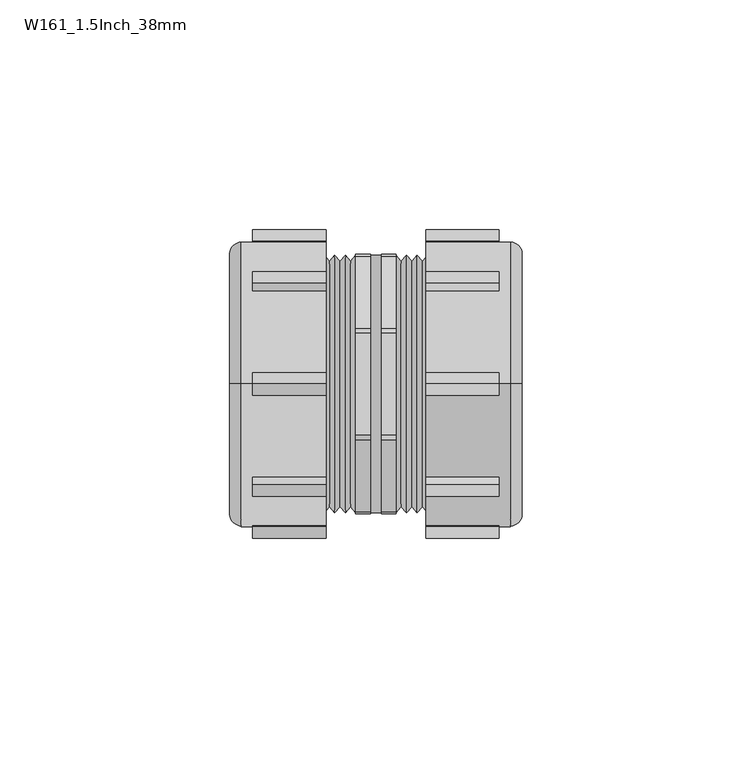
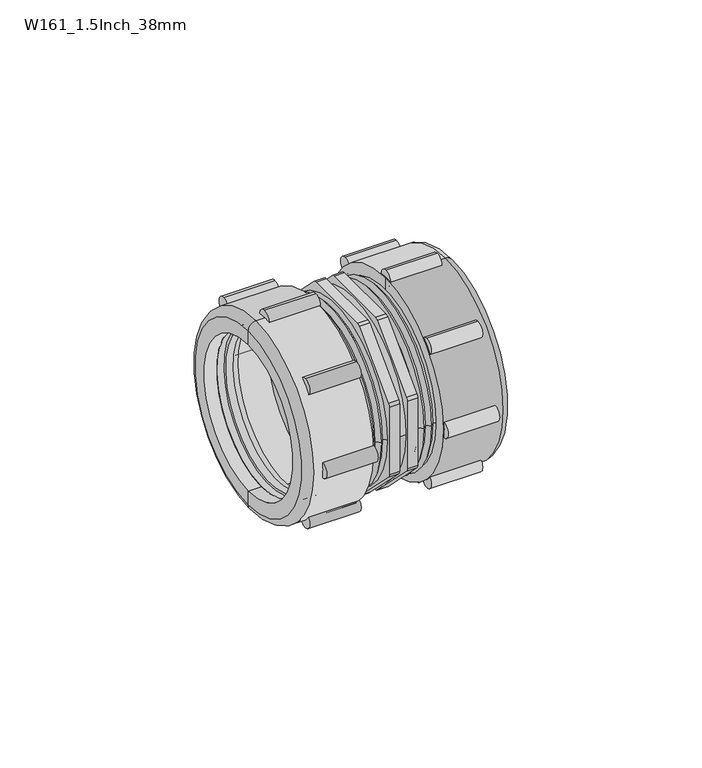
"""IFC4 building model written with IfcOpenShell, lengths in millimetres: pipe fitting geometry, Durapipe_PipeFitting_VulcatheneMechanical_LineCoupler_W16 : W161_1.5Inch_38mm."""

from ifc_helpers import new_model, si_unit, point, frame, frame_2d, origin, place, context, project, spatial, polyline, circle_curve, ellipse_curve, trimmed, segment, composite_curve, outline, extrude, source, transform, mapped, element, save
from ifc_brep_helpers import plane_surface, cylinder_surface, revolved_surface, advanced_brep


def w161_1_5inch_38mm_ecee96b1(model_context):
    return source(origin(), model_context, "Body", "SolidModel", [
        advanced_brep(
        [(27.6, -18.5969083, 18.5969083), (27.6, 18.5969083, -18.5969083), (27.6, 17.1119841, -17.1119841), (27.6, -17.1119841, 17.1119841), (22.6, -18.3140656, 18.3140656), (22.6, 18.3140656, -18.3140656), (21.1, -18.1019336, 18.1019336), (21.1, 18.1019336, -18.1019336), (22.6, 18.1019336, -18.1019336), (22.6, -18.1019336, 18.1019336), (21.1, -17.1119841, 17.1119841), (21.1, 17.1119841, -17.1119841), (23.1, -17.1119841, 17.1119841), (23.1, 17.1119841, -17.1119841), (23.1, -16.5462987, 16.5462987), (23.1, 16.5462987, -16.5462987), (25.4, -17.1119841, 17.1119841), (25.4, 17.1119841, -17.1119841), (25.4, 16.5462987, -16.5462987), (25.4, -16.5462987, 16.5462987)],
        [
            (0, 1, circle_curve(frame((27.6, 0.0, 0.0), z_axis=(1.0, 0.0, 0.0), x_axis=(0.0, 0.7071067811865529, -0.7071067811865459)), 26.3)),
            (1, 2),
            (2, 3, circle_curve(frame((27.6, 0.0, 0.0), z_axis=(-1.0, 0.0, 0.0), x_axis=(0.0, 0.7071067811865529, -0.7071067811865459)), 24.2)),
            (3, 0),
            (1, 0, circle_curve(frame((27.6, 0.0, 0.0), z_axis=(1.0, 0.0, 0.0), x_axis=(0.0, 0.7071067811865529, -0.7071067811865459)), 26.3)),
            (3, 2, circle_curve(frame((27.6, 0.0, 0.0), z_axis=(-1.0, 0.0, 0.0), x_axis=(0.0, 0.7071067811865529, -0.7071067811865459)), 24.2)),
            (4, 5, circle_curve(frame((22.6, 0.0, 0.0), z_axis=(1.0, 0.0, 0.0), x_axis=(0.0, 0.7071067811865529, -0.7071067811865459)), 25.9)),
            (5, 1),
            (0, 4),
            (5, 4, circle_curve(frame((22.6, 0.0, 0.0), z_axis=(1.0, 0.0, 0.0), x_axis=(0.0, 0.7071067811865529, -0.7071067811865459)), 25.9)),
            (6, 7, circle_curve(frame((21.1, 0.0, 0.0), z_axis=(1.0, 0.0, 0.0), x_axis=(0.0, 0.7071067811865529, -0.7071067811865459)), 25.6)),
            (7, 8),
            (8, 9, circle_curve(frame((22.6, 0.0, 0.0), z_axis=(-1.0, 0.0, 0.0), x_axis=(0.0, 0.7071067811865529, -0.7071067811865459)), 25.6)),
            (9, 6),
            (7, 6, circle_curve(frame((21.1, 0.0, 0.0), z_axis=(1.0, 0.0, 0.0), x_axis=(0.0, 0.7071067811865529, -0.7071067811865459)), 25.6)),
            (9, 8, circle_curve(frame((22.6, 0.0, 0.0), z_axis=(-1.0, 0.0, 0.0), x_axis=(0.0, 0.7071067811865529, -0.7071067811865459)), 25.6)),
            (6, 10),
            (10, 11, circle_curve(frame((21.1, 0.0, 0.0), z_axis=(1.0, 0.0, 0.0), x_axis=(0.0, 0.7071067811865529, -0.7071067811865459)), 24.2)),
            (11, 7),
            (11, 10, circle_curve(frame((21.1, 0.0, 0.0), z_axis=(1.0, 0.0, 0.0), x_axis=(0.0, 0.7071067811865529, -0.7071067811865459)), 24.2)),
            (10, 12),
            (12, 13, circle_curve(frame((23.1, 0.0, 0.0), z_axis=(1.0, 0.0, 0.0), x_axis=(0.0, 0.7071067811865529, -0.7071067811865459)), 24.2)),
            (13, 11),
            (13, 12, circle_curve(frame((23.1, 0.0, 0.0), z_axis=(1.0, 0.0, 0.0), x_axis=(0.0, 0.7071067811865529, -0.7071067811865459)), 24.2)),
            (12, 14),
            (14, 15, circle_curve(frame((23.1, 0.0, 0.0), z_axis=(1.0, 0.0, 0.0), x_axis=(0.0, 0.7071067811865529, -0.7071067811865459)), 23.4)),
            (15, 13),
            (15, 14, circle_curve(frame((23.1, 0.0, 0.0), z_axis=(1.0, 0.0, 0.0), x_axis=(0.0, 0.7071067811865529, -0.7071067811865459)), 23.4)),
            (16, 17, circle_curve(frame((25.4, 0.0, 0.0), z_axis=(1.0, 0.0, 0.0), x_axis=(0.0, 0.7071067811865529, -0.7071067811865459)), 24.2)),
            (17, 18),
            (18, 19, circle_curve(frame((25.4, 0.0, 0.0), z_axis=(-1.0, 0.0, 0.0), x_axis=(0.0, 0.7071067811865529, -0.7071067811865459)), 23.4)),
            (19, 16),
            (17, 16, circle_curve(frame((25.4, 0.0, 0.0), z_axis=(1.0, 0.0, 0.0), x_axis=(0.0, 0.7071067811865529, -0.7071067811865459)), 24.2)),
            (19, 18, circle_curve(frame((25.4, 0.0, 0.0), z_axis=(-1.0, 0.0, 0.0), x_axis=(0.0, 0.7071067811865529, -0.7071067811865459)), 23.4)),
            (2, 17),
            (16, 3),
            (14, 19),
            (18, 15),
            (4, 9),
            (8, 5),
        ],
        [
            plane_surface(frame((27.6, 0.0, 0.0), z_axis=(1.0, 0.0, 0.0), x_axis=(0.0, 0.707106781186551, -0.707106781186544))),
            revolved_surface(polyline([(27.6, 18.5969083, -18.5969083), (22.6, 18.3140656, -18.3140656)]), (32.6, 0.0, 0.0), (-1.0000000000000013, 0.0, 0.0)),
            cylinder_surface(frame((19.0293443, 0.0, 0.0), z_axis=(-1.0000000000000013, 0.0, 0.0), x_axis=(0.0, 0.7071067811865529, -0.7071067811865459)), 25.6),
            plane_surface(frame((21.1, 0.0, 0.0), z_axis=(-1.0, 0.0, 0.0), x_axis=(0.0, 0.707106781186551, -0.707106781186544))),
            revolved_surface(polyline([(21.10000000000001, 17.11198410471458, -17.11198410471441), (23.100000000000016, 17.11198410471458, -17.11198410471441)]), (17.607009, 0.0, 0.0), (-1.0000000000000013, 0.0, 0.0)),
            plane_surface(frame((23.1, 0.0, 0.0), z_axis=(-1.0, 0.0, 0.0), x_axis=(0.0, 0.707106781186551, -0.707106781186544))),
            plane_surface(frame((25.4, 0.0, 0.0), z_axis=(1.0, 0.0, 0.0), x_axis=(0.0, 0.707106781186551, -0.707106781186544))),
            revolved_surface(polyline([(25.399999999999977, 17.11198410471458, -17.11198410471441), (27.599999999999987, 17.11198410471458, -17.11198410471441)]), (32.6, 0.0, 0.0), (-1.0000000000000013, 0.0, 0.0)),
            revolved_surface(polyline([(23.099999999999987, 16.546298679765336, -16.546298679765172), (25.399999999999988, 16.546298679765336, -16.546298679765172)]), (29.1661924, 0.0, 0.0), (-1.0000000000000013, 0.0, 0.0)),
            plane_surface(frame((22.6, 0.0, 0.0), z_axis=(-1.0, 0.0, 0.0), x_axis=(0.0, 0.707106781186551, -0.707106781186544))),
        ],
        [
            (0, [[1, 2, 3, 4]]),
            (0, [[-2, 5, -4, 6]]),
            (1, [[7, 8, -1, 9]]),
            (1, [[10, -9, -5, -8]]),
            (2, [[11, 12, 13, 14]]),
            (2, [[-12, 15, -14, 16]]),
            (3, [[-11, 17, 18, 19]]),
            (3, [[-15, -19, 20, -17]]),
            (4, [[21, 22, 23, -18]]),
            (4, [[-21, -20, -23, 24]]),
            (5, [[-22, 25, 26, 27]]),
            (5, [[-24, -27, 28, -25]]),
            (6, [[29, 30, 31, 32]]),
            (6, [[33, -32, 34, -30]]),
            (7, [[-3, 35, -29, 36]]),
            (7, [[-6, -36, -33, -35]]),
            (8, [[37, -31, 38, -26]]),
            (8, [[-37, -28, -38, -34]]),
            (9, [[-7, 39, -13, 40]]),
            (9, [[-10, -40, -16, -39]]),
        ],
    ),
        advanced_brep(
        [(10.9, 0.0, 31.0), (10.9, 0.0, -31.0), (29.3, 0.0, -31.0), (29.3, 0.0, 31.0), (10.9, 0.0, 26.0), (10.9, 0.0, -26.0), (31.8, 0.0, 28.5), (31.8, 0.0, -28.5), (31.8, 0.0, -24.0), (31.8, 0.0, 24.0), (27.6, 0.0, 26.0), (27.6, 0.0, -26.0), (27.6, 0.0, 24.0), (27.6, 0.0, -24.0)],
        [
            (0, 1, circle_curve(frame((10.9, 0.0, 0.0), z_axis=(1.0, 0.0, 0.0), x_axis=(0.0, 0.0, -1.0000000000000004)), 31.0)),
            (1, 2),
            (2, 3, circle_curve(frame((29.3, 0.0, 0.0), z_axis=(-1.0, 0.0, 0.0), x_axis=(0.0, 0.0, -1.0000000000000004)), 31.0)),
            (3, 0),
            (1, 0, circle_curve(frame((10.9, 0.0, 0.0), z_axis=(1.0, 0.0, 0.0), x_axis=(0.0, 0.0, -1.0000000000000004)), 31.0)),
            (3, 2, circle_curve(frame((29.3, 0.0, 0.0), z_axis=(-1.0, 0.0, 0.0), x_axis=(0.0, 0.0, -1.0000000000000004)), 31.0)),
            (4, 5, circle_curve(frame((10.9, 0.0, 0.0), z_axis=(1.0, 0.0, 0.0), x_axis=(0.0, 0.0, -1.0000000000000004)), 26.0)),
            (5, 1),
            (0, 4),
            (5, 4, circle_curve(frame((10.9, 0.0, 0.0), z_axis=(1.0, 0.0, 0.0), x_axis=(0.0, 0.0, -1.0000000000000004)), 26.0)),
            (6, 7, circle_curve(frame((31.8, 0.0, 0.0), z_axis=(1.0, 0.0, 0.0), x_axis=(0.0, 0.0, -1.0000000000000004)), 28.5)),
            (7, 8),
            (8, 9, circle_curve(frame((31.8, 0.0, 0.0), z_axis=(-1.0, 0.0, 0.0), x_axis=(0.0, 0.0, -1.0000000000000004)), 24.0)),
            (9, 6),
            (7, 6, circle_curve(frame((31.8, 0.0, 0.0), z_axis=(1.0, 0.0, 0.0), x_axis=(0.0, 0.0, -1.0000000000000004)), 28.5)),
            (9, 8, circle_curve(frame((31.8, 0.0, 0.0), z_axis=(-1.0, 0.0, 0.0), x_axis=(0.0, 0.0, -1.0000000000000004)), 24.0)),
            (2, 7, circle_curve(frame((29.3, 0.0, -28.5), z_axis=(0.0, -1.0000000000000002, 0.0), x_axis=(1.0000000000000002, 0.0, 0.0)), 2.5)),
            (6, 3, circle_curve(frame((29.3, 0.0, 28.5), z_axis=(0.0, -1.0000000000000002, 0.0), x_axis=(1.0000000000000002, 0.0, 0.0)), 2.5)),
            (10, 11, circle_curve(frame((27.6, 0.0, 0.0), z_axis=(1.0, 0.0, 0.0), x_axis=(0.0, 0.0, -1.0000000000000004)), 26.0)),
            (11, 5),
            (4, 10),
            (11, 10, circle_curve(frame((27.6, 0.0, 0.0), z_axis=(1.0, 0.0, 0.0), x_axis=(0.0, 0.0, -1.0000000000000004)), 26.0)),
            (12, 13, circle_curve(frame((27.6, 0.0, 0.0), z_axis=(1.0, 0.0, 0.0), x_axis=(0.0, 0.0, -1.0000000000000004)), 24.0)),
            (13, 11),
            (10, 12),
            (13, 12, circle_curve(frame((27.6, 0.0, 0.0), z_axis=(1.0, 0.0, 0.0), x_axis=(0.0, 0.0, -1.0000000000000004)), 24.0)),
            (8, 13),
            (12, 9),
        ],
        [
            cylinder_surface(frame((1592.6018184, 0.0, 0.0), z_axis=(-1.0000000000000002, 0.0, 0.0), x_axis=(0.0, 0.0, -1.0000000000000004)), 31.0),
            plane_surface(frame((10.9, 0.0, 0.0), z_axis=(-1.0, 0.0, 0.0), x_axis=(0.0, 0.0, -1.0))),
            plane_surface(frame((31.8, 0.0, 0.0), z_axis=(1.0, 0.0, 0.0), x_axis=(0.0, 0.0, -1.0))),
            revolved_surface(trimmed(ellipse_curve(frame((29.3, 0.0, -28.5), z_axis=(0.0, 1.0000000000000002, 0.0), x_axis=(1.0000000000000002, 0.0, 0.0)), 2.5, 2.5), [point((31.8, 0.0, -28.5))], [point((29.3, 0.0, -31.0))], True, "CARTESIAN"), (1592.6018184, 0.0, 0.0), (-1.0000000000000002, 0.0, 0.0)),
            revolved_surface(polyline([(10.899999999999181, 0.0, -26.00000000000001), (27.599999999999, 0.0, -26.00000000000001)]), (1592.6018184, 0.0, 0.0), (-1.0000000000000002, 0.0, 0.0)),
            plane_surface(frame((27.6, 0.0, 0.0), z_axis=(-1.0, 0.0, 0.0), x_axis=(0.0, 0.0, -1.0))),
            revolved_surface(polyline([(27.599999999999, 0.0, -24.00000000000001), (31.799999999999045, 0.0, -24.00000000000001)]), (1592.6018184, 0.0, 0.0), (-1.0000000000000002, 0.0, 0.0)),
        ],
        [
            (0, [[1, 2, 3, 4]]),
            (0, [[5, -4, 6, -2]]),
            (1, [[7, 8, -1, 9]]),
            (1, [[10, -9, -5, -8]]),
            (2, [[11, 12, 13, 14]]),
            (2, [[15, -14, 16, -12]]),
            (3, [[-3, 17, -11, 18]]),
            (3, [[-6, -18, -15, -17]]),
            (4, [[19, 20, -7, 21]]),
            (4, [[22, -21, -10, -20]]),
            (5, [[23, 24, -19, 25]]),
            (5, [[26, -25, -22, -24]]),
            (6, [[-13, 27, -23, 28]]),
            (6, [[-16, -28, -26, -27]]),
        ],
    ),
        extrude(outline(composite_curve([segment(trimmed(circle_curve(frame_2d((31.0, 0.0)), 2.5), [point((31.0, 2.5))], [point((31.0, -2.5))], False, "CARTESIAN"), True, "CONTINUOUS"), segment(trimmed(circle_curve(frame_2d((31.0, 0.0)), 2.5), [point((31.0, -2.5))], [point((31.0, 2.5))], False, "CARTESIAN"), True, "CONTINUOUS")], self_intersect=False)), frame((10.9, 0.0, 0.0), z_axis=(1.0, 0.0, 0.0), x_axis=(0.0, 1.0, 0.0)), (0.0, 0.0, 1.0), 15.9),
        extrude(outline(composite_curve([segment(trimmed(circle_curve(frame_2d((21.9203102, -21.9203102)), 2.5), [point((21.9203102, -19.4203102))], [point((21.9203102, -24.4203102))], False, "CARTESIAN"), True, "CONTINUOUS"), segment(trimmed(circle_curve(frame_2d((21.9203102, -21.9203102)), 2.5), [point((21.9203102, -24.4203102))], [point((21.9203102, -19.4203102))], False, "CARTESIAN"), True, "CONTINUOUS")], self_intersect=False)), frame((10.9, 0.0, 0.0), z_axis=(1.0, 0.0, 0.0), x_axis=(0.0, 1.0, 0.0)), (0.0, 0.0, 1.0), 15.9),
        extrude(outline(composite_curve([segment(trimmed(circle_curve(frame_2d((0.0, -31.0)), 2.5), [point((0.0, -28.5))], [point((0.0, -33.5))], False, "CARTESIAN"), True, "CONTINUOUS"), segment(trimmed(circle_curve(frame_2d((0.0, -31.0)), 2.5), [point((0.0, -33.5))], [point((0.0, -28.5))], False, "CARTESIAN"), True, "CONTINUOUS")], self_intersect=False)), frame((10.9, 0.0, 0.0), z_axis=(1.0, 0.0, 0.0), x_axis=(0.0, 1.0, 0.0)), (0.0, 0.0, 1.0), 15.9),
        extrude(outline(composite_curve([segment(trimmed(circle_curve(frame_2d((-21.9203102, -21.9203102)), 2.5), [point((-21.9203102, -19.4203102))], [point((-21.9203102, -24.4203102))], False, "CARTESIAN"), True, "CONTINUOUS"), segment(trimmed(circle_curve(frame_2d((-21.9203102, -21.9203102)), 2.5), [point((-21.9203102, -24.4203102))], [point((-21.9203102, -19.4203102))], False, "CARTESIAN"), True, "CONTINUOUS")], self_intersect=False)), frame((10.9, 0.0, 0.0), z_axis=(1.0, 0.0, 0.0), x_axis=(0.0, 1.0, 0.0)), (0.0, 0.0, 1.0), 15.9),
        extrude(outline(composite_curve([segment(trimmed(circle_curve(frame_2d((-31.0, 0.0)), 2.5), [point((-31.0, 2.5))], [point((-31.0, -2.5))], False, "CARTESIAN"), True, "CONTINUOUS"), segment(trimmed(circle_curve(frame_2d((-31.0, 0.0)), 2.5), [point((-31.0, -2.5))], [point((-31.0, 2.5))], False, "CARTESIAN"), True, "CONTINUOUS")], self_intersect=False)), frame((10.9, 0.0, 0.0), z_axis=(1.0, 0.0, 0.0), x_axis=(0.0, 1.0, 0.0)), (0.0, 0.0, 1.0), 15.9),
        extrude(outline(composite_curve([segment(trimmed(circle_curve(frame_2d((-21.9203102, 21.9203102)), 2.5), [point((-21.9203102, 24.4203102))], [point((-21.9203102, 19.4203102))], False, "CARTESIAN"), True, "CONTINUOUS"), segment(trimmed(circle_curve(frame_2d((-21.9203102, 21.9203102)), 2.5), [point((-21.9203102, 19.4203102))], [point((-21.9203102, 24.4203102))], False, "CARTESIAN"), True, "CONTINUOUS")], self_intersect=False)), frame((10.9, 0.0, 0.0), z_axis=(1.0, 0.0, 0.0), x_axis=(0.0, 1.0, 0.0)), (0.0, 0.0, 1.0), 15.9),
        extrude(outline(composite_curve([segment(trimmed(circle_curve(frame_2d((0.0, 31.0)), 2.5), [point((0.0, 33.5))], [point((0.0, 28.5))], False, "CARTESIAN"), True, "CONTINUOUS"), segment(trimmed(circle_curve(frame_2d((0.0, 31.0)), 2.5), [point((0.0, 28.5))], [point((0.0, 33.5))], False, "CARTESIAN"), True, "CONTINUOUS")], self_intersect=False)), frame((10.9, 0.0, 0.0), z_axis=(1.0, 0.0, 0.0), x_axis=(0.0, 1.0, 0.0)), (0.0, 0.0, 1.0), 15.9),
        extrude(outline(composite_curve([segment(trimmed(circle_curve(frame_2d((21.9203102, 21.9203102)), 2.5), [point((21.9203102, 24.4203102))], [point((21.9203102, 19.4203102))], False, "CARTESIAN"), True, "CONTINUOUS"), segment(trimmed(circle_curve(frame_2d((21.9203102, 21.9203102)), 2.5), [point((21.9203102, 19.4203102))], [point((21.9203102, 24.4203102))], False, "CARTESIAN"), True, "CONTINUOUS")], self_intersect=False)), frame((10.9, 0.0, 0.0), z_axis=(1.0, 0.0, 0.0), x_axis=(0.0, 1.0, 0.0)), (0.0, 0.0, 1.0), 15.9),
        advanced_brep(
        [(-27.6, -18.5969083, -18.5969083), (-27.6, 18.5969083, 18.5969083), (-27.6, 17.1119841, 17.1119841), (-27.6, -17.1119841, -17.1119841), (-22.6, -18.3140656, -18.3140656), (-22.6, 18.3140656, 18.3140656), (-21.1, -18.1019336, -18.1019336), (-21.1, 18.1019336, 18.1019336), (-22.6, 18.1019336, 18.1019336), (-22.6, -18.1019336, -18.1019336), (-21.1, -17.1119841, -17.1119841), (-21.1, 17.1119841, 17.1119841), (-23.1, -17.1119841, -17.1119841), (-23.1, 17.1119841, 17.1119841), (-23.1, -16.5462987, -16.5462987), (-23.1, 16.5462987, 16.5462987), (-25.4, -17.1119841, -17.1119841), (-25.4, 17.1119841, 17.1119841), (-25.4, 16.5462987, 16.5462987), (-25.4, -16.5462987, -16.5462987)],
        [
            (0, 1, circle_curve(frame((-27.6, 0.0, 0.0), z_axis=(-1.0, 0.0, 0.0), x_axis=(0.0, 0.7071067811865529, 0.7071067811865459)), 26.3)),
            (1, 2),
            (2, 3, circle_curve(frame((-27.6, 0.0, 0.0), z_axis=(1.0, 0.0, 0.0), x_axis=(0.0, 0.7071067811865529, 0.7071067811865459)), 24.2)),
            (3, 0),
            (1, 0, circle_curve(frame((-27.6, 0.0, 0.0), z_axis=(-1.0, 0.0, 0.0), x_axis=(0.0, 0.7071067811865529, 0.7071067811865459)), 26.3)),
            (3, 2, circle_curve(frame((-27.6, 0.0, 0.0), z_axis=(1.0, 0.0, 0.0), x_axis=(0.0, 0.7071067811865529, 0.7071067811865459)), 24.2)),
            (4, 5, circle_curve(frame((-22.6, 0.0, 0.0), z_axis=(-1.0, 0.0, 0.0), x_axis=(0.0, 0.7071067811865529, 0.7071067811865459)), 25.9)),
            (5, 1),
            (0, 4),
            (5, 4, circle_curve(frame((-22.6, 0.0, 0.0), z_axis=(-1.0, 0.0, 0.0), x_axis=(0.0, 0.7071067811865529, 0.7071067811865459)), 25.9)),
            (6, 7, circle_curve(frame((-21.1, 0.0, 0.0), z_axis=(-1.0, 0.0, 0.0), x_axis=(0.0, 0.7071067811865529, 0.7071067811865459)), 25.6)),
            (7, 8),
            (8, 9, circle_curve(frame((-22.6, 0.0, 0.0), z_axis=(1.0, 0.0, 0.0), x_axis=(0.0, 0.7071067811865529, 0.7071067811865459)), 25.6)),
            (9, 6),
            (7, 6, circle_curve(frame((-21.1, 0.0, 0.0), z_axis=(-1.0, 0.0, 0.0), x_axis=(0.0, 0.7071067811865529, 0.7071067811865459)), 25.6)),
            (9, 8, circle_curve(frame((-22.6, 0.0, 0.0), z_axis=(1.0, 0.0, 0.0), x_axis=(0.0, 0.7071067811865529, 0.7071067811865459)), 25.6)),
            (6, 10),
            (10, 11, circle_curve(frame((-21.1, 0.0, 0.0), z_axis=(-1.0, 0.0, 0.0), x_axis=(0.0, 0.7071067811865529, 0.7071067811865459)), 24.2)),
            (11, 7),
            (11, 10, circle_curve(frame((-21.1, 0.0, 0.0), z_axis=(-1.0, 0.0, 0.0), x_axis=(0.0, 0.7071067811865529, 0.7071067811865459)), 24.2)),
            (10, 12),
            (12, 13, circle_curve(frame((-23.1, 0.0, 0.0), z_axis=(-1.0, 0.0, 0.0), x_axis=(0.0, 0.7071067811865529, 0.7071067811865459)), 24.2)),
            (13, 11),
            (13, 12, circle_curve(frame((-23.1, 0.0, 0.0), z_axis=(-1.0, 0.0, 0.0), x_axis=(0.0, 0.7071067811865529, 0.7071067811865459)), 24.2)),
            (12, 14),
            (14, 15, circle_curve(frame((-23.1, 0.0, 0.0), z_axis=(-1.0, 0.0, 0.0), x_axis=(0.0, 0.7071067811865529, 0.7071067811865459)), 23.4)),
            (15, 13),
            (15, 14, circle_curve(frame((-23.1, 0.0, 0.0), z_axis=(-1.0, 0.0, 0.0), x_axis=(0.0, 0.7071067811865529, 0.7071067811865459)), 23.4)),
            (16, 17, circle_curve(frame((-25.4, 0.0, 0.0), z_axis=(-1.0, 0.0, 0.0), x_axis=(0.0, 0.7071067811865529, 0.7071067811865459)), 24.2)),
            (17, 18),
            (18, 19, circle_curve(frame((-25.4, 0.0, 0.0), z_axis=(1.0, 0.0, 0.0), x_axis=(0.0, 0.7071067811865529, 0.7071067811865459)), 23.4)),
            (19, 16),
            (17, 16, circle_curve(frame((-25.4, 0.0, 0.0), z_axis=(-1.0, 0.0, 0.0), x_axis=(0.0, 0.7071067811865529, 0.7071067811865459)), 24.2)),
            (19, 18, circle_curve(frame((-25.4, 0.0, 0.0), z_axis=(1.0, 0.0, 0.0), x_axis=(0.0, 0.7071067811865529, 0.7071067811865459)), 23.4)),
            (2, 17),
            (16, 3),
            (14, 19),
            (18, 15),
            (4, 9),
            (8, 5),
        ],
        [
            plane_surface(frame((-27.6, 0.0, 0.0), z_axis=(-1.0, 0.0, 0.0), x_axis=(0.0, 0.707106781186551, 0.707106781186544))),
            revolved_surface(polyline([(-27.6, 18.5969083, 18.5969083), (-22.6, 18.3140656, 18.3140656)]), (-32.6, 0.0, 0.0), (1.0000000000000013, 0.0, 0.0)),
            cylinder_surface(frame((-19.0293443, 0.0, 0.0), z_axis=(1.0000000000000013, 0.0, 0.0), x_axis=(0.0, 0.7071067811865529, 0.7071067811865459)), 25.6),
            plane_surface(frame((-21.1, 0.0, 0.0), z_axis=(1.0, 0.0, 0.0), x_axis=(0.0, 0.707106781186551, 0.707106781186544))),
            revolved_surface(polyline([(-21.10000000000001, 17.11198410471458, 17.11198410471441), (-23.100000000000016, 17.11198410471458, 17.11198410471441)]), (-17.607009, 0.0, 0.0), (1.0000000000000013, 0.0, 0.0)),
            plane_surface(frame((-23.1, 0.0, 0.0), z_axis=(1.0, 0.0, 0.0), x_axis=(0.0, 0.707106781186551, 0.707106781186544))),
            plane_surface(frame((-25.4, 0.0, 0.0), z_axis=(-1.0, 0.0, 0.0), x_axis=(0.0, 0.707106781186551, 0.707106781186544))),
            revolved_surface(polyline([(-25.399999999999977, 17.11198410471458, 17.11198410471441), (-27.599999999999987, 17.11198410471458, 17.11198410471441)]), (-32.6, 0.0, 0.0), (1.0000000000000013, 0.0, 0.0)),
            revolved_surface(polyline([(-23.099999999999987, 16.546298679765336, 16.546298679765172), (-25.399999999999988, 16.546298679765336, 16.546298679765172)]), (-29.1661924, 0.0, 0.0), (1.0000000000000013, 0.0, 0.0)),
            plane_surface(frame((-22.6, 0.0, 0.0), z_axis=(1.0, 0.0, 0.0), x_axis=(0.0, 0.707106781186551, 0.707106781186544))),
        ],
        [
            (0, [[1, 2, 3, 4]]),
            (0, [[-2, 5, -4, 6]]),
            (1, [[7, 8, -1, 9]]),
            (1, [[10, -9, -5, -8]]),
            (2, [[11, 12, 13, 14]]),
            (2, [[-12, 15, -14, 16]]),
            (3, [[-11, 17, 18, 19]]),
            (3, [[-15, -19, 20, -17]]),
            (4, [[21, 22, 23, -18]]),
            (4, [[-21, -20, -23, 24]]),
            (5, [[-22, 25, 26, 27]]),
            (5, [[-24, -27, 28, -25]]),
            (6, [[29, 30, 31, 32]]),
            (6, [[33, -32, 34, -30]]),
            (7, [[-3, 35, -29, 36]]),
            (7, [[-6, -36, -33, -35]]),
            (8, [[37, -31, 38, -26]]),
            (8, [[-37, -28, -38, -34]]),
            (9, [[-7, 39, -13, 40]]),
            (9, [[-10, -40, -16, -39]]),
        ],
    ),
        advanced_brep(
        [(-10.9, 0.0, -31.0), (-10.9, 0.0, 31.0), (-29.3, 0.0, 31.0), (-29.3, 0.0, -31.0), (-10.9, 0.0, -26.0), (-10.9, 0.0, 26.0), (-31.8, 0.0, -28.5), (-31.8, 0.0, 28.5), (-31.8, 0.0, 24.0), (-31.8, 0.0, -24.0), (-27.6, 0.0, -26.0), (-27.6, 0.0, 26.0), (-27.6, 0.0, -24.0), (-27.6, 0.0, 24.0)],
        [
            (0, 1, circle_curve(frame((-10.9, 0.0, 0.0), z_axis=(-1.0, 0.0, 0.0), x_axis=(0.0, 0.0, 1.0000000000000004)), 31.0)),
            (1, 2),
            (2, 3, circle_curve(frame((-29.3, 0.0, 0.0), z_axis=(1.0, 0.0, 0.0), x_axis=(0.0, 0.0, 1.0000000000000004)), 31.0)),
            (3, 0),
            (1, 0, circle_curve(frame((-10.9, 0.0, 0.0), z_axis=(-1.0, 0.0, 0.0), x_axis=(0.0, 0.0, 1.0000000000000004)), 31.0)),
            (3, 2, circle_curve(frame((-29.3, 0.0, 0.0), z_axis=(1.0, 0.0, 0.0), x_axis=(0.0, 0.0, 1.0000000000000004)), 31.0)),
            (4, 5, circle_curve(frame((-10.9, 0.0, 0.0), z_axis=(-1.0, 0.0, 0.0), x_axis=(0.0, 0.0, 1.0000000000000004)), 26.0)),
            (5, 1),
            (0, 4),
            (5, 4, circle_curve(frame((-10.9, 0.0, 0.0), z_axis=(-1.0, 0.0, 0.0), x_axis=(0.0, 0.0, 1.0000000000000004)), 26.0)),
            (6, 7, circle_curve(frame((-31.8, 0.0, 0.0), z_axis=(-1.0, 0.0, 0.0), x_axis=(0.0, 0.0, 1.0000000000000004)), 28.5)),
            (7, 8),
            (8, 9, circle_curve(frame((-31.8, 0.0, 0.0), z_axis=(1.0, 0.0, 0.0), x_axis=(0.0, 0.0, 1.0000000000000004)), 24.0)),
            (9, 6),
            (7, 6, circle_curve(frame((-31.8, 0.0, 0.0), z_axis=(-1.0, 0.0, 0.0), x_axis=(0.0, 0.0, 1.0000000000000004)), 28.5)),
            (9, 8, circle_curve(frame((-31.8, 0.0, 0.0), z_axis=(1.0, 0.0, 0.0), x_axis=(0.0, 0.0, 1.0000000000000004)), 24.0)),
            (2, 7, circle_curve(frame((-29.3, 0.0, 28.5), z_axis=(0.0, -1.0000000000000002, 0.0), x_axis=(-1.0000000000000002, 0.0, 0.0)), 2.5)),
            (6, 3, circle_curve(frame((-29.3, 0.0, -28.5), z_axis=(0.0, -1.0000000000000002, 0.0), x_axis=(-1.0000000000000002, 0.0, 0.0)), 2.5)),
            (10, 11, circle_curve(frame((-27.6, 0.0, 0.0), z_axis=(-1.0, 0.0, 0.0), x_axis=(0.0, 0.0, 1.0000000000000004)), 26.0)),
            (11, 5),
            (4, 10),
            (11, 10, circle_curve(frame((-27.6, 0.0, 0.0), z_axis=(-1.0, 0.0, 0.0), x_axis=(0.0, 0.0, 1.0000000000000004)), 26.0)),
            (12, 13, circle_curve(frame((-27.6, 0.0, 0.0), z_axis=(-1.0, 0.0, 0.0), x_axis=(0.0, 0.0, 1.0000000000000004)), 24.0)),
            (13, 11),
            (10, 12),
            (13, 12, circle_curve(frame((-27.6, 0.0, 0.0), z_axis=(-1.0, 0.0, 0.0), x_axis=(0.0, 0.0, 1.0000000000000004)), 24.0)),
            (8, 13),
            (12, 9),
        ],
        [
            cylinder_surface(frame((-1592.6018184, 0.0, 0.0), z_axis=(1.0000000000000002, 0.0, 0.0), x_axis=(0.0, 0.0, 1.0000000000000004)), 31.0),
            plane_surface(frame((-10.9, 0.0, 0.0), z_axis=(1.0, 0.0, 0.0), x_axis=(0.0, 0.0, 1.0))),
            plane_surface(frame((-31.8, 0.0, 0.0), z_axis=(-1.0, 0.0, 0.0), x_axis=(0.0, 0.0, 1.0))),
            revolved_surface(trimmed(ellipse_curve(frame((-29.3, 0.0, 28.5), z_axis=(0.0, 1.0000000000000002, 0.0), x_axis=(-1.0000000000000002, 0.0, 0.0)), 2.5, 2.5), [point((-31.8, 0.0, 28.5))], [point((-29.3, 0.0, 31.0))], True, "CARTESIAN"), (-1592.6018184, 0.0, 0.0), (1.0000000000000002, 0.0, 0.0)),
            revolved_surface(polyline([(-10.899999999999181, 0.0, 26.00000000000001), (-27.599999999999, 0.0, 26.00000000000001)]), (-1592.6018184, 0.0, 0.0), (1.0000000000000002, 0.0, 0.0)),
            plane_surface(frame((-27.6, 0.0, 0.0), z_axis=(1.0, 0.0, 0.0), x_axis=(0.0, 0.0, 1.0))),
            revolved_surface(polyline([(-27.599999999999, 0.0, 24.00000000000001), (-31.799999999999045, 0.0, 24.00000000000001)]), (-1592.6018184, 0.0, 0.0), (1.0000000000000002, 0.0, 0.0)),
        ],
        [
            (0, [[1, 2, 3, 4]]),
            (0, [[5, -4, 6, -2]]),
            (1, [[7, 8, -1, 9]]),
            (1, [[10, -9, -5, -8]]),
            (2, [[11, 12, 13, 14]]),
            (2, [[15, -14, 16, -12]]),
            (3, [[-3, 17, -11, 18]]),
            (3, [[-6, -18, -15, -17]]),
            (4, [[19, 20, -7, 21]]),
            (4, [[22, -21, -10, -20]]),
            (5, [[23, 24, -19, 25]]),
            (5, [[26, -25, -22, -24]]),
            (6, [[-13, 27, -23, 28]]),
            (6, [[-16, -28, -26, -27]]),
        ],
    ),
        extrude(outline(composite_curve([segment(trimmed(circle_curve(frame_2d((31.0, 0.0)), 2.5), [point((31.0, -2.5))], [point((31.0, 2.5))], False, "CARTESIAN"), True, "CONTINUOUS"), segment(trimmed(circle_curve(frame_2d((31.0, 0.0)), 2.5), [point((31.0, 2.5))], [point((31.0, -2.5))], False, "CARTESIAN"), True, "CONTINUOUS")], self_intersect=False)), frame((-26.8, 0.0, 0.0), z_axis=(1.0, 0.0, 0.0), x_axis=(0.0, 1.0, 0.0)), (0.0, 0.0, 1.0), 15.9),
        extrude(outline(composite_curve([segment(trimmed(circle_curve(frame_2d((21.9203102, 21.9203102)), 2.5), [point((21.9203102, 19.4203102))], [point((21.9203102, 24.4203102))], False, "CARTESIAN"), True, "CONTINUOUS"), segment(trimmed(circle_curve(frame_2d((21.9203102, 21.9203102)), 2.5), [point((21.9203102, 24.4203102))], [point((21.9203102, 19.4203102))], False, "CARTESIAN"), True, "CONTINUOUS")], self_intersect=False)), frame((-26.8, 0.0, 0.0), z_axis=(1.0, 0.0, 0.0), x_axis=(0.0, 1.0, 0.0)), (0.0, 0.0, 1.0), 15.9),
        extrude(outline(composite_curve([segment(trimmed(circle_curve(frame_2d((0.0, 31.0)), 2.5), [point((0.0, 28.5))], [point((0.0, 33.5))], False, "CARTESIAN"), True, "CONTINUOUS"), segment(trimmed(circle_curve(frame_2d((0.0, 31.0)), 2.5), [point((0.0, 33.5))], [point((0.0, 28.5))], False, "CARTESIAN"), True, "CONTINUOUS")], self_intersect=False)), frame((-26.8, 0.0, 0.0), z_axis=(1.0, 0.0, 0.0), x_axis=(0.0, 1.0, 0.0)), (0.0, 0.0, 1.0), 15.9),
        extrude(outline(composite_curve([segment(trimmed(circle_curve(frame_2d((-21.9203102, 21.9203102)), 2.5), [point((-21.9203102, 19.4203102))], [point((-21.9203102, 24.4203102))], False, "CARTESIAN"), True, "CONTINUOUS"), segment(trimmed(circle_curve(frame_2d((-21.9203102, 21.9203102)), 2.5), [point((-21.9203102, 24.4203102))], [point((-21.9203102, 19.4203102))], False, "CARTESIAN"), True, "CONTINUOUS")], self_intersect=False)), frame((-26.8, 0.0, 0.0), z_axis=(1.0, 0.0, 0.0), x_axis=(0.0, 1.0, 0.0)), (0.0, 0.0, 1.0), 15.9),
        extrude(outline(composite_curve([segment(trimmed(circle_curve(frame_2d((-31.0, 0.0)), 2.5), [point((-31.0, -2.5))], [point((-31.0, 2.5))], False, "CARTESIAN"), True, "CONTINUOUS"), segment(trimmed(circle_curve(frame_2d((-31.0, 0.0)), 2.5), [point((-31.0, 2.5))], [point((-31.0, -2.5))], False, "CARTESIAN"), True, "CONTINUOUS")], self_intersect=False)), frame((-26.8, 0.0, 0.0), z_axis=(1.0, 0.0, 0.0), x_axis=(0.0, 1.0, 0.0)), (0.0, 0.0, 1.0), 15.9),
        extrude(outline(composite_curve([segment(trimmed(circle_curve(frame_2d((-21.9203102, -21.9203102)), 2.5), [point((-21.9203102, -24.4203102))], [point((-21.9203102, -19.4203102))], False, "CARTESIAN"), True, "CONTINUOUS"), segment(trimmed(circle_curve(frame_2d((-21.9203102, -21.9203102)), 2.5), [point((-21.9203102, -19.4203102))], [point((-21.9203102, -24.4203102))], False, "CARTESIAN"), True, "CONTINUOUS")], self_intersect=False)), frame((-26.8, 0.0, 0.0), z_axis=(1.0, 0.0, 0.0), x_axis=(0.0, 1.0, 0.0)), (0.0, 0.0, 1.0), 15.9),
        extrude(outline(composite_curve([segment(trimmed(circle_curve(frame_2d((0.0, -31.0)), 2.5), [point((0.0, -33.5))], [point((0.0, -28.5))], False, "CARTESIAN"), True, "CONTINUOUS"), segment(trimmed(circle_curve(frame_2d((0.0, -31.0)), 2.5), [point((0.0, -28.5))], [point((0.0, -33.5))], False, "CARTESIAN"), True, "CONTINUOUS")], self_intersect=False)), frame((-26.8, 0.0, 0.0), z_axis=(1.0, 0.0, 0.0), x_axis=(0.0, 1.0, 0.0)), (0.0, 0.0, 1.0), 15.9),
        extrude(outline(composite_curve([segment(trimmed(circle_curve(frame_2d((21.9203102, -21.9203102)), 2.5), [point((21.9203102, -24.4203102))], [point((21.9203102, -19.4203102))], False, "CARTESIAN"), True, "CONTINUOUS"), segment(trimmed(circle_curve(frame_2d((21.9203102, -21.9203102)), 2.5), [point((21.9203102, -19.4203102))], [point((21.9203102, -24.4203102))], False, "CARTESIAN"), True, "CONTINUOUS")], self_intersect=False)), frame((-26.8, 0.0, 0.0), z_axis=(1.0, 0.0, 0.0), x_axis=(0.0, 1.0, 0.0)), (0.0, 0.0, 1.0), 15.9),
        extrude(outline(composite_curve([segment(trimmed(circle_curve(frame_2d((11.0802128, 26.75)), 1.5), [point((11.0802128, 28.25))], [point((12.140873, 27.8106602))], False, "CARTESIAN"), True, "CONTINUOUS"), segment(polyline([(12.140873, 27.8106602), (27.8106602, 12.140873)]), True, "CONTINUOUS"), segment(trimmed(circle_curve(frame_2d((26.75, 11.0802128)), 1.5), [point((27.8106602, 12.140873))], [point((28.25, 11.0802128))], False, "CARTESIAN"), True, "CONTINUOUS"), segment(polyline([(28.25, 11.0802128), (28.25, -11.0802128)]), True, "CONTINUOUS"), segment(trimmed(circle_curve(frame_2d((26.75, -11.0802128)), 1.5), [point((28.25, -11.0802128))], [point((27.8106602, -12.140873))], False, "CARTESIAN"), True, "CONTINUOUS"), segment(polyline([(27.8106602, -12.140873), (12.140873, -27.8106602)]), True, "CONTINUOUS"), segment(trimmed(circle_curve(frame_2d((11.0802128, -26.75)), 1.5), [point((12.140873, -27.8106602))], [point((11.0802128, -28.25))], False, "CARTESIAN"), True, "CONTINUOUS"), segment(polyline([(11.0802128, -28.25), (-11.0802128, -28.25)]), True, "CONTINUOUS"), segment(trimmed(circle_curve(frame_2d((-11.0802128, -26.75)), 1.5), [point((-11.0802128, -28.25))], [point((-12.140873, -27.8106602))], False, "CARTESIAN"), True, "CONTINUOUS"), segment(polyline([(-12.140873, -27.8106602), (-27.8106602, -12.140873)]), True, "CONTINUOUS"), segment(trimmed(circle_curve(frame_2d((-26.75, -11.0802128)), 1.5), [point((-27.8106602, -12.140873))], [point((-28.25, -11.0802128))], False, "CARTESIAN"), True, "CONTINUOUS"), segment(polyline([(-28.25, -11.0802128), (-28.25, 11.0802128)]), True, "CONTINUOUS"), segment(trimmed(circle_curve(frame_2d((-26.75, 11.0802128)), 1.5), [point((-28.25, 11.0802128))], [point((-27.8106602, 12.140873))], False, "CARTESIAN"), True, "CONTINUOUS"), segment(polyline([(-27.8106602, 12.140873), (-12.140873, 27.8106602)]), True, "CONTINUOUS"), segment(trimmed(circle_curve(frame_2d((-11.0802128, 26.75)), 1.5), [point((-12.140873, 27.8106602))], [point((-11.0802128, 28.25))], False, "CARTESIAN"), True, "CONTINUOUS"), segment(polyline([(-11.0802128, 28.25), (11.0802128, 28.25)]), True, "CONTINUOUS")], self_intersect=False)), frame((-4.4, 0.0, 0.0), z_axis=(1.0, 0.0, 0.0), x_axis=(0.0, 1.0, 0.0)), (0.0, 0.0, 1.0), 3.2),
        extrude(outline(composite_curve([segment(trimmed(circle_curve(frame_2d((11.0802128, 26.75)), 1.5), [point((11.0802128, 28.25))], [point((12.140873, 27.8106602))], False, "CARTESIAN"), True, "CONTINUOUS"), segment(polyline([(12.140873, 27.8106602), (27.8106602, 12.140873)]), True, "CONTINUOUS"), segment(trimmed(circle_curve(frame_2d((26.75, 11.0802128)), 1.5), [point((27.8106602, 12.140873))], [point((28.25, 11.0802128))], False, "CARTESIAN"), True, "CONTINUOUS"), segment(polyline([(28.25, 11.0802128), (28.25, -11.0802128)]), True, "CONTINUOUS"), segment(trimmed(circle_curve(frame_2d((26.75, -11.0802128)), 1.5), [point((28.25, -11.0802128))], [point((27.8106602, -12.140873))], False, "CARTESIAN"), True, "CONTINUOUS"), segment(polyline([(27.8106602, -12.140873), (12.140873, -27.8106602)]), True, "CONTINUOUS"), segment(trimmed(circle_curve(frame_2d((11.0802128, -26.75)), 1.5), [point((12.140873, -27.8106602))], [point((11.0802128, -28.25))], False, "CARTESIAN"), True, "CONTINUOUS"), segment(polyline([(11.0802128, -28.25), (-11.0802128, -28.25)]), True, "CONTINUOUS"), segment(trimmed(circle_curve(frame_2d((-11.0802128, -26.75)), 1.5), [point((-11.0802128, -28.25))], [point((-12.140873, -27.8106602))], False, "CARTESIAN"), True, "CONTINUOUS"), segment(polyline([(-12.140873, -27.8106602), (-27.8106602, -12.140873)]), True, "CONTINUOUS"), segment(trimmed(circle_curve(frame_2d((-26.75, -11.0802128)), 1.5), [point((-27.8106602, -12.140873))], [point((-28.25, -11.0802128))], False, "CARTESIAN"), True, "CONTINUOUS"), segment(polyline([(-28.25, -11.0802128), (-28.25, 11.0802128)]), True, "CONTINUOUS"), segment(trimmed(circle_curve(frame_2d((-26.75, 11.0802128)), 1.5), [point((-28.25, 11.0802128))], [point((-27.8106602, 12.140873))], False, "CARTESIAN"), True, "CONTINUOUS"), segment(polyline([(-27.8106602, 12.140873), (-12.140873, 27.8106602)]), True, "CONTINUOUS"), segment(trimmed(circle_curve(frame_2d((-11.0802128, 26.75)), 1.5), [point((-12.140873, 27.8106602))], [point((-11.0802128, 28.25))], False, "CARTESIAN"), True, "CONTINUOUS"), segment(polyline([(-11.0802128, 28.25), (11.0802128, 28.25)]), True, "CONTINUOUS")], self_intersect=False)), frame((1.2, 0.0, 0.0), z_axis=(1.0, 0.0, 0.0), x_axis=(0.0, 1.0, 0.0)), (0.0, 0.0, 1.0), 3.2),
        advanced_brep(
        [(-10.9, 0.0, 0.0), (-10.9, 27.5797732, 0.0), (-10.9, -27.5797732, 0.0), (-10.1431143, 26.7090757, 0.0), (-10.1431143, -26.7090757, 0.0), (-8.978125, 28.0492426, 0.0), (-8.978125, -28.0492426, 0.0), (-4.4, -27.9551056, 0.0), (-4.4, 27.9551056, 0.0), (-4.4, 0.0, 0.0), (-5.4831572, -26.7090757, 0.0), (-5.4831572, 26.7090757, 0.0), (-6.6481465, -28.0492426, 0.0), (-6.6481465, 28.0492426, 0.0), (-7.8131357, -26.7090757, 0.0), (-7.8131357, 26.7090757, 0.0)],
        [
            (0, 1),
            (1, 2, circle_curve(frame((-10.9, 0.0, 0.0), z_axis=(-1.0, 0.0, 0.0), x_axis=(0.0, 1.0, 0.0)), 27.5797732)),
            (2, 0),
            (2, 1, circle_curve(frame((-10.9, 0.0, 0.0), z_axis=(-1.0, 0.0, 0.0), x_axis=(0.0, 1.0, 0.0)), 27.5797732)),
            (1, 3),
            (3, 4, circle_curve(frame((-10.1431143, 0.0, 0.0), z_axis=(-1.0, 0.0, 0.0), x_axis=(0.0, 1.0, 0.0)), 26.7090757)),
            (4, 2),
            (4, 3, circle_curve(frame((-10.1431143, 0.0, 0.0), z_axis=(-1.0, 0.0, 0.0), x_axis=(0.0, 1.0, 0.0)), 26.7090757)),
            (3, 5),
            (5, 6, circle_curve(frame((-8.978125, 0.0, 0.0), z_axis=(-1.0, 0.0, 0.0), x_axis=(0.0, 1.0, 0.0)), 28.0492426)),
            (6, 4),
            (6, 5, circle_curve(frame((-8.978125, 0.0, 0.0), z_axis=(-1.0, 0.0, 0.0), x_axis=(0.0, 1.0, 0.0)), 28.0492426)),
            (7, 8, circle_curve(frame((-4.4, 0.0, 0.0), z_axis=(1.0, 0.0, 0.0), x_axis=(0.0, 1.0, 0.0)), 27.9551056)),
            (8, 9),
            (9, 7),
            (8, 7, circle_curve(frame((-4.4, 0.0, 0.0), z_axis=(1.0, 0.0, 0.0), x_axis=(0.0, 1.0, 0.0)), 27.9551056)),
            (10, 11, circle_curve(frame((-5.4831572, 0.0, 0.0), z_axis=(1.0, 0.0, 0.0), x_axis=(0.0, 1.0, 0.0)), 26.7090757)),
            (11, 8),
            (7, 10),
            (11, 10, circle_curve(frame((-5.4831572, 0.0, 0.0), z_axis=(1.0, 0.0, 0.0), x_axis=(0.0, 1.0, 0.0)), 26.7090757)),
            (12, 13, circle_curve(frame((-6.6481465, 0.0, 0.0), z_axis=(1.0, 0.0, 0.0), x_axis=(0.0, 1.0, 0.0)), 28.0492426)),
            (13, 11),
            (10, 12),
            (13, 12, circle_curve(frame((-6.6481465, 0.0, 0.0), z_axis=(1.0, 0.0, 0.0), x_axis=(0.0, 1.0, 0.0)), 28.0492426)),
            (14, 15, circle_curve(frame((-7.8131357, 0.0, 0.0), z_axis=(1.0, 0.0, 0.0), x_axis=(0.0, 1.0, 0.0)), 26.7090757)),
            (15, 13),
            (12, 14),
            (15, 14, circle_curve(frame((-7.8131357, 0.0, 0.0), z_axis=(1.0, 0.0, 0.0), x_axis=(0.0, 1.0, 0.0)), 26.7090757)),
            (5, 15),
            (14, 6),
        ],
        [
            plane_surface(frame((-10.9, 0.0, 0.0), z_axis=(-1.0, 0.0, 0.0), x_axis=(0.0, 1.0, 0.0))),
            revolved_surface(polyline([(-10.1431143, 26.7090757, 0.0), (-10.9, 27.5797732, 0.0)]), (-17.4849993, 0.0, 0.0), (-1.0, 0.0, 0.0)),
            revolved_surface(polyline([(-8.978125, 28.0492426, 0.0), (-10.1431143, 26.7090757, 0.0)]), (-17.4849993, 0.0, 0.0), (-1.0, 0.0, 0.0)),
            plane_surface(frame((-4.4, 0.0, 0.0), z_axis=(1.0, 0.0, 0.0), x_axis=(0.0, 1.0, 0.0))),
            revolved_surface(polyline([(-4.4, 27.9551056, 0.0), (-5.4831572, 26.7090757, 0.0)]), (-17.4849993, 0.0, 0.0), (-1.0, 0.0, 0.0)),
            revolved_surface(polyline([(-5.4831572, 26.7090757, 0.0), (-6.6481465, 28.0492426, 0.0)]), (-17.4849993, 0.0, 0.0), (-1.0, 0.0, 0.0)),
            revolved_surface(polyline([(-6.6481465, 28.0492426, 0.0), (-7.8131357, 26.7090757, 0.0)]), (-17.4849993, 0.0, 0.0), (-1.0, 0.0, 0.0)),
            revolved_surface(polyline([(-7.8131357, 26.7090757, 0.0), (-8.978125, 28.0492426, 0.0)]), (-17.4849993, 0.0, 0.0), (-1.0, 0.0, 0.0)),
        ],
        [
            (0, [[1, 2, 3]]),
            (0, [[-3, 4, -1]]),
            (1, [[-2, 5, 6, 7]]),
            (1, [[-4, -7, 8, -5]]),
            (2, [[-6, 9, 10, 11]]),
            (2, [[-8, -11, 12, -9]]),
            (3, [[13, 14, 15]]),
            (3, [[16, -15, -14]]),
            (4, [[17, 18, -13, 19]]),
            (4, [[20, -19, -16, -18]]),
            (5, [[21, 22, -17, 23]]),
            (5, [[24, -23, -20, -22]]),
            (6, [[25, 26, -21, 27]]),
            (6, [[28, -27, -24, -26]]),
            (7, [[-10, 29, -25, 30]]),
            (7, [[-12, -30, -28, -29]]),
        ],
    ),
        advanced_brep(
        [(-1.18, 0.0, 0.0), (-1.18, 28.0, 0.0), (-1.18, -28.0, 0.0), (1.2, -28.0, 0.0), (1.2, 28.0, 0.0), (1.2, 0.0, 0.0)],
        [
            (0, 1),
            (1, 2, circle_curve(frame((-1.18, 0.0, 0.0), z_axis=(-1.0, 0.0, 0.0), x_axis=(0.0, 1.0, 0.0)), 28.0)),
            (2, 0),
            (2, 1, circle_curve(frame((-1.18, 0.0, 0.0), z_axis=(-1.0, 0.0, 0.0), x_axis=(0.0, 1.0, 0.0)), 28.0)),
            (3, 4, circle_curve(frame((1.2, 0.0, 0.0), z_axis=(1.0, 0.0, 0.0), x_axis=(0.0, 1.0, 0.0)), 28.0)),
            (4, 5),
            (5, 3),
            (4, 3, circle_curve(frame((1.2, 0.0, 0.0), z_axis=(1.0, 0.0, 0.0), x_axis=(0.0, 1.0, 0.0)), 28.0)),
            (1, 4),
            (3, 2),
        ],
        [
            plane_surface(frame((-1.18, 0.0, 0.0), z_axis=(-1.0, 0.0, 0.0), x_axis=(0.0, 1.0, 0.0))),
            plane_surface(frame((1.2, 0.0, 0.0), z_axis=(1.0, 0.0, 0.0), x_axis=(0.0, 1.0, 0.0))),
            cylinder_surface(frame((-17.4849993, 0.0, 0.0), z_axis=(-1.0, 0.0, 0.0), x_axis=(0.0, 1.0, 0.0)), 28.0),
        ],
        [
            (0, [[1, 2, 3]]),
            (0, [[-3, 4, -1]]),
            (1, [[5, 6, 7]]),
            (1, [[8, -7, -6]]),
            (2, [[-2, 9, -5, 10]]),
            (2, [[-4, -10, -8, -9]]),
        ],
    ),
        advanced_brep(
        [(10.9, -27.5797732, 0.0), (10.9, 27.5797732, 0.0), (10.9, 0.0, 0.0), (10.1431143, -26.7090757, 0.0), (10.1431143, 26.7090757, 0.0), (8.978125, -28.0492426, 0.0), (8.978125, 28.0492426, 0.0), (7.8131357, -26.7090757, 0.0), (7.8131357, 26.7090757, 0.0), (6.6481465, -28.0492426, 0.0), (6.6481465, 28.0492426, 0.0), (5.4831572, -26.7090757, 0.0), (5.4831572, 26.7090757, 0.0), (4.4, -27.9551056, 0.0), (4.4, 27.9551056, 0.0), (4.4, 0.0, 0.0)],
        [
            (0, 1, circle_curve(frame((10.9, 0.0, 0.0), z_axis=(1.0, 0.0, 0.0), x_axis=(0.0, 1.0, 0.0)), 27.5797732)),
            (1, 2),
            (2, 0),
            (1, 0, circle_curve(frame((10.9, 0.0, 0.0), z_axis=(1.0, 0.0, 0.0), x_axis=(0.0, 1.0, 0.0)), 27.5797732)),
            (3, 4, circle_curve(frame((10.1431143, 0.0, 0.0), z_axis=(1.0, 0.0, 0.0), x_axis=(0.0, 1.0, 0.0)), 26.7090757)),
            (4, 1),
            (0, 3),
            (4, 3, circle_curve(frame((10.1431143, 0.0, 0.0), z_axis=(1.0, 0.0, 0.0), x_axis=(0.0, 1.0, 0.0)), 26.7090757)),
            (5, 6, circle_curve(frame((8.978125, 0.0, 0.0), z_axis=(1.0, 0.0, 0.0), x_axis=(0.0, 1.0, 0.0)), 28.0492426)),
            (6, 4),
            (3, 5),
            (6, 5, circle_curve(frame((8.978125, 0.0, 0.0), z_axis=(1.0, 0.0, 0.0), x_axis=(0.0, 1.0, 0.0)), 28.0492426)),
            (7, 8, circle_curve(frame((7.8131357, 0.0, 0.0), z_axis=(1.0, 0.0, 0.0), x_axis=(0.0, 1.0, 0.0)), 26.7090757)),
            (8, 6),
            (5, 7),
            (8, 7, circle_curve(frame((7.8131357, 0.0, 0.0), z_axis=(1.0, 0.0, 0.0), x_axis=(0.0, 1.0, 0.0)), 26.7090757)),
            (9, 10, circle_curve(frame((6.6481465, 0.0, 0.0), z_axis=(1.0, 0.0, 0.0), x_axis=(0.0, 1.0, 0.0)), 28.0492426)),
            (10, 8),
            (7, 9),
            (10, 9, circle_curve(frame((6.6481465, 0.0, 0.0), z_axis=(1.0, 0.0, 0.0), x_axis=(0.0, 1.0, 0.0)), 28.0492426)),
            (11, 12, circle_curve(frame((5.4831572, 0.0, 0.0), z_axis=(1.0, 0.0, 0.0), x_axis=(0.0, 1.0, 0.0)), 26.7090757)),
            (12, 10),
            (9, 11),
            (12, 11, circle_curve(frame((5.4831572, 0.0, 0.0), z_axis=(1.0, 0.0, 0.0), x_axis=(0.0, 1.0, 0.0)), 26.7090757)),
            (13, 14, circle_curve(frame((4.4, 0.0, 0.0), z_axis=(1.0, 0.0, 0.0), x_axis=(0.0, 1.0, 0.0)), 27.9551056)),
            (14, 12),
            (11, 13),
            (14, 13, circle_curve(frame((4.4, 0.0, 0.0), z_axis=(1.0, 0.0, 0.0), x_axis=(0.0, 1.0, 0.0)), 27.9551056)),
            (15, 14),
            (13, 15),
        ],
        [
            plane_surface(frame((10.9, 0.0, 0.0), z_axis=(1.0, 0.0, 0.0), x_axis=(0.0, 1.0, 0.0))),
            revolved_surface(polyline([(10.9, 27.5797732, 0.0), (10.1431143, 26.7090757, 0.0)]), (-17.4849993, 0.0, 0.0), (-1.0, 0.0, 0.0)),
            revolved_surface(polyline([(10.1431143, 26.7090757, 0.0), (8.978125, 28.0492426, 0.0)]), (-17.4849993, 0.0, 0.0), (-1.0, 0.0, 0.0)),
            revolved_surface(polyline([(8.978125, 28.0492426, 0.0), (7.8131357, 26.7090757, 0.0)]), (-17.4849993, 0.0, 0.0), (-1.0, 0.0, 0.0)),
            revolved_surface(polyline([(7.8131357, 26.7090757, 0.0), (6.6481465, 28.0492426, 0.0)]), (-17.4849993, 0.0, 0.0), (-1.0, 0.0, 0.0)),
            revolved_surface(polyline([(6.6481465, 28.0492426, 0.0), (5.4831572, 26.7090757, 0.0)]), (-17.4849993, 0.0, 0.0), (-1.0, 0.0, 0.0)),
            revolved_surface(polyline([(5.4831572, 26.7090757, 0.0), (4.4, 27.9551056, 0.0)]), (-17.4849993, 0.0, 0.0), (-1.0, 0.0, 0.0)),
            plane_surface(frame((4.4, 0.0, 0.0), z_axis=(-1.0, 0.0, 0.0), x_axis=(0.0, 1.0, 0.0))),
        ],
        [
            (0, [[1, 2, 3]]),
            (0, [[4, -3, -2]]),
            (1, [[5, 6, -1, 7]]),
            (1, [[8, -7, -4, -6]]),
            (2, [[9, 10, -5, 11]]),
            (2, [[12, -11, -8, -10]]),
            (3, [[13, 14, -9, 15]]),
            (3, [[16, -15, -12, -14]]),
            (4, [[17, 18, -13, 19]]),
            (4, [[20, -19, -16, -18]]),
            (5, [[21, 22, -17, 23]]),
            (5, [[24, -23, -20, -22]]),
            (6, [[25, 26, -21, 27]]),
            (6, [[28, -27, -24, -26]]),
            (7, [[29, -25, 30]]),
            (7, [[-30, -28, -29]]),
        ],
    ),
    ])


if __name__ == "__main__":
    model = new_model("IFC4")
    model_context = context("Model", 3, world=origin())
    ifc_project = project(units=[si_unit("LENGTHUNIT", "METRE", prefix="MILLI")], contexts=[model_context])
    site = spatial("IfcSite", under=ifc_project)
    building = spatial("IfcBuilding", under=site)
    placement = place(None, origin())
    w161_1_5inch_38mm_shape = w161_1_5inch_38mm_ecee96b1(model_context)
    element("IfcPipeFitting", 1, ObjectType="Durapipe_PipeFitting_VulcatheneMechanical_LineCoupler_W16 : W161_1.5Inch_38mm", at=placement, inside=building, context=model_context, shape_type="MappedRepresentation", body=[
        mapped(w161_1_5inch_38mm_shape, transform((0.0, 0.0, 0.0), x_axis=(1.0, 0.0, 0.0), y_axis=(0.0, 1.0, 0.0), z_axis=(0.0, 0.0, 1.0))),
    ])
    save(model, "model.ifc")
